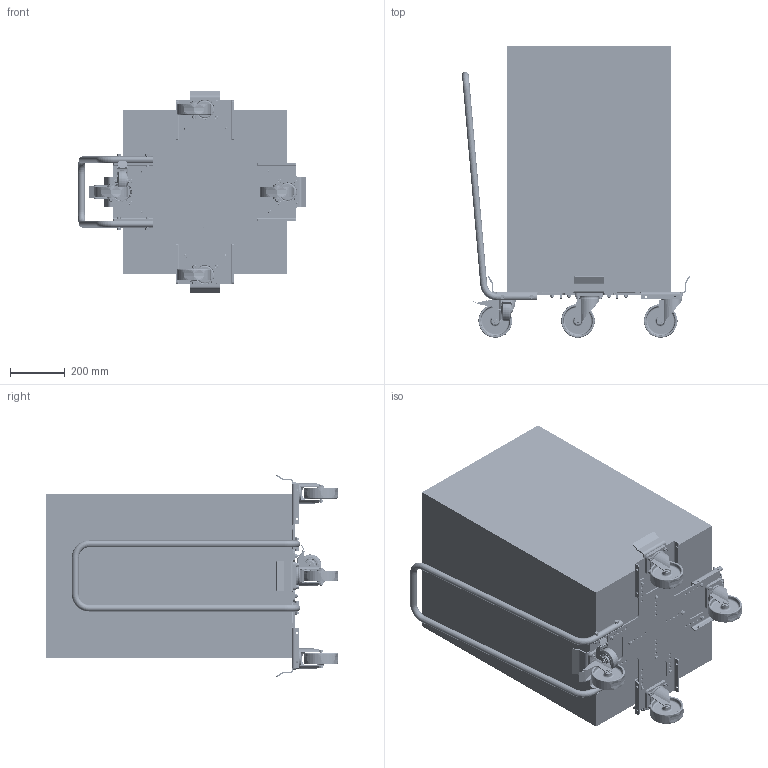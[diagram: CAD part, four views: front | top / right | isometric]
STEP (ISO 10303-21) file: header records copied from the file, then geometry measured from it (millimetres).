
FILE_DESCRIPTION (( 'STEP AP214' ), '1' );
FILE_NAME ('0000007686.STEP', '2020-03-23T15:05:41', ( '' ), ( '' ), 'SwSTEP 2.0', 'SolidWorks 2019', '' );
FILE_SCHEMA (( 'AUTOMOTIVE_DESIGN' ));
Length unit declared in the file: millimetre
Products named in the file (29): Kopie von POEV-G_R_G15(POEV_80_12R_597526)^0000006877; Fass Eco^0000007686; 0000007687_Standard<Wie bearbeitet>; Kopie von Kopie von _3477_UOO_125_P622_4^0000007892; plain washer grade a_din_Washer DIN 125 - A 8.4; 0000007892_270ø; socket countersunk head screw_iso_ISO 10642 - M8 x 20 --- 20N; Kopie von _3470_UOO_125_P623_6^0000007893; Kopie von GH-L_080-FI_G15^0000006877; 0000007893; 0000006877; Fass Jumbo^0000007686; curved spring lock washer_din_Spring washer DIN 128 - A8; Kopie von _3477_UOO_125_P622_4^0000007892; hex nut style 1 gradeab_iso_Hexagon Nut ISO - 4032 - M8 - D - N; Kopie von _3470_UOO_125_P621_2^0000007893; 0000010386; Kopie von _3470_UOO_125_P622_4^0000007893; Kopie von AM_L_8x41x2,5_R^0000006877; 0000007893_270ø; 0000007684; Kopie von _3477_UOO_125_P621_2^0000007892; 0000007686; socket head cap screw_din_DIN 912 M8 x 40 --- 40N; Kopie von _3477_UOO_125_P623_6^0000007892; 0000007685; Kopie von Kopie von _3470_UOO_125_P622_4^0000007893; socket countersunk head screw_iso_ISO 10642 - M8 x 16 --- 16N
Assembly tree (135 placements, depth 3):
  0000007686
    0000007684
    0000007687_Standard<Wie bearbeitet>
    curved spring lock washer_din_Spring washer DIN 128 - A8  x31
    socket head cap screw_din_DIN 912 M8 x 40 --- 40N  x4
    plain washer grade a_din_Washer DIN 125 - A 8.4  x4
    hex nut style 1 gradeab_iso_Hexagon Nut ISO - 4032 - M8 - D - N  x32
    0000007685  x4
    socket countersunk head screw_iso_ISO 10642 - M8 x 20 --- 20N  x12
    0000010386  x4
    socket countersunk head screw_iso_ISO 10642 - M8 x 16 --- 16N  x16
    0000006877
      Kopie von GH-L_080-FI_G15^0000006877
      Kopie von AM_L_8x41x2,5_R^0000006877
      Kopie von POEV-G_R_G15(POEV_80_12R_597526)^0000006877
    0000007892_270ø
      Kopie von _3477_UOO_125_P621_2^0000007892
      Kopie von Kopie von _3477_UOO_125_P622_4^0000007892
      Kopie von _3477_UOO_125_P622_4^0000007892
      Kopie von _3477_UOO_125_P623_6^0000007892
    0000007893
      Kopie von _3470_UOO_125_P621_2^0000007893
      Kopie von Kopie von _3470_UOO_125_P622_4^0000007893
      Kopie von _3470_UOO_125_P623_6^0000007893
      Kopie von _3470_UOO_125_P622_4^0000007893
    0000007893
      Kopie von _3470_UOO_125_P621_2^0000007893
      Kopie von Kopie von _3470_UOO_125_P622_4^0000007893
      Kopie von _3470_UOO_125_P623_6^0000007893
      Kopie von _3470_UOO_125_P622_4^0000007893
    0000007893_270ø
      Kopie von Kopie von _3470_UOO_125_P622_4^0000007893
      Kopie von _3470_UOO_125_P622_4^0000007893
      Kopie von _3470_UOO_125_P623_6^0000007893
      Kopie von _3470_UOO_125_P621_2^0000007893
    Fass Eco^0000007686
    Fass Jumbo^0000007686
Bounding box: 834.27 x 1067.86 x 740 mm (x, y, z)
Volume: 177272949.1 mm3; surface area: 8357266 mm2
Topology: 130 solids, 134 shells, 5010 faces, 12153 edges, 7527 vertices
Faces by surface type: plane 1973, cylinder 1325, cone 949, bspline 393, torus 370
Entity records: 106111 total; most frequent: CARTESIAN_POINT 43748, ORIENTED_EDGE 12320, DIRECTION 10066, EDGE_CURVE 6160, VERTEX_POINT 3974, AXIS2_PLACEMENT_3D 3564, LINE 2938, VECTOR 2938
